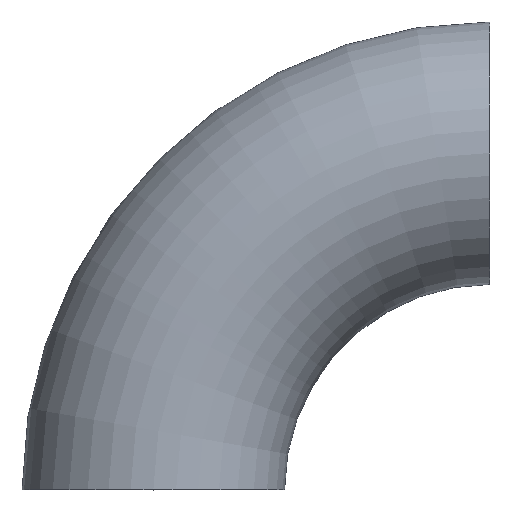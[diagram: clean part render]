
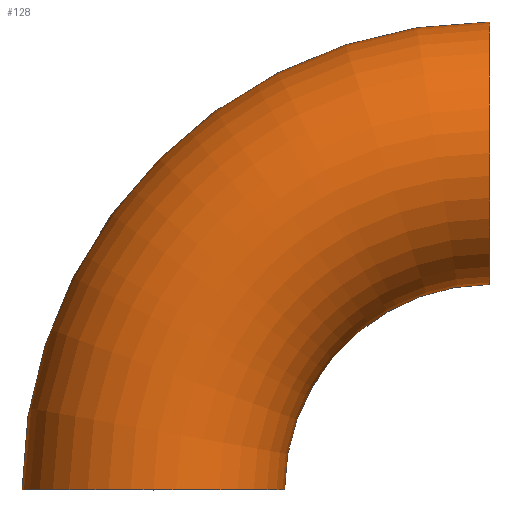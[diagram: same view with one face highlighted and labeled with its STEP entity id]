
A CAD part, top view. The second image highlights one B-rep face of the part: STEP entity #128.
In plain terms, the highlighted toroidal (fillet/blend) face has major radius 114 mm and minor radius 44.45 mm.
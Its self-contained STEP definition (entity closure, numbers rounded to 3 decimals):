
#6 = AXIS2_PLACEMENT_3D ( 'NONE', #94, #67, #9 ) ;
#8 = CARTESIAN_POINT ( 'NONE',  ( 114., 0., 0. ) ) ;
#9 = DIRECTION ( 'NONE',  ( 1., 0., 0. ) ) ;
#14 = CARTESIAN_POINT ( 'NONE',  ( 0., 0., 0. ) ) ;
#19 = ORIENTED_EDGE ( 'NONE', *, *, #251, .T. ) ;
#20 = CARTESIAN_POINT ( 'NONE',  ( -44.45, 0., 0. ) ) ;
#32 = DIRECTION ( 'NONE',  ( 0., 0., 1. ) ) ;
#39 = ORIENTED_EDGE ( 'NONE', *, *, #221, .F. ) ;
#47 = ORIENTED_EDGE ( 'NONE', *, *, #199, .F. ) ;
#65 = TOROIDAL_SURFACE ( 'NONE', #6, 114., 44.45 ) ;
#67 = DIRECTION ( 'NONE',  ( 0., 0., 1. ) ) ;
#69 = CARTESIAN_POINT ( 'NONE',  ( 114., 69.55, 0. ) ) ;
#72 = DIRECTION ( 'NONE',  ( 1., 0., 0. ) ) ;
#74 = DIRECTION ( 'NONE',  ( 0., 1., 0. ) ) ;
#93 = DIRECTION ( 'NONE',  ( 1., 0., 0. ) ) ;
#94 = CARTESIAN_POINT ( 'NONE',  ( 114., 0., 0. ) ) ;
#103 = CIRCLE ( 'NONE', #166, 44.45 ) ;
#104 = VERTEX_POINT ( 'NONE', #20 ) ;
#110 = AXIS2_PLACEMENT_3D ( 'NONE', #158, #93, #228 ) ;
#118 = EDGE_CURVE ( 'NONE', #227, #104, #239, .T. ) ;
#119 = DIRECTION ( 'NONE',  ( 0., 0., 1. ) ) ;
#126 = AXIS2_PLACEMENT_3D ( 'NONE', #8, #155, #214 ) ;
#128 = ADVANCED_FACE ( 'NONE', ( #216 ), #65, .T. ) ;
#138 = CARTESIAN_POINT ( 'NONE',  ( 114., 158.45, 0. ) ) ;
#144 = CIRCLE ( 'NONE', #110, 44.45 ) ;
#147 = EDGE_LOOP ( 'NONE', ( #39, #164, #19, #47 ) ) ;
#155 = DIRECTION ( 'NONE',  ( 0., 0., 1. ) ) ;
#158 = CARTESIAN_POINT ( 'NONE',  ( 114., 114., 0. ) ) ;
#164 = ORIENTED_EDGE ( 'NONE', *, *, #118, .T. ) ;
#166 = AXIS2_PLACEMENT_3D ( 'NONE', #14, #74, #119 ) ;
#177 = CIRCLE ( 'NONE', #215, 69.55 ) ;
#185 = VERTEX_POINT ( 'NONE', #200 ) ;
#196 = VERTEX_POINT ( 'NONE', #69 ) ;
#199 = EDGE_CURVE ( 'NONE', #196, #185, #177, .T. ) ;
#200 = CARTESIAN_POINT ( 'NONE',  ( 44.45, 0., 0. ) ) ;
#214 = DIRECTION ( 'NONE',  ( 1., 0., 0. ) ) ;
#215 = AXIS2_PLACEMENT_3D ( 'NONE', #229, #32, #72 ) ;
#216 = FACE_OUTER_BOUND ( 'NONE', #147, .T. ) ;
#221 = EDGE_CURVE ( 'NONE', #227, #196, #144, .T. ) ;
#227 = VERTEX_POINT ( 'NONE', #138 ) ;
#228 = DIRECTION ( 'NONE',  ( 0., 0., 1. ) ) ;
#229 = CARTESIAN_POINT ( 'NONE',  ( 114., 0., 0. ) ) ;
#239 = CIRCLE ( 'NONE', #126, 158.45 ) ;
#251 = EDGE_CURVE ( 'NONE', #104, #185, #103, .T. ) ;
